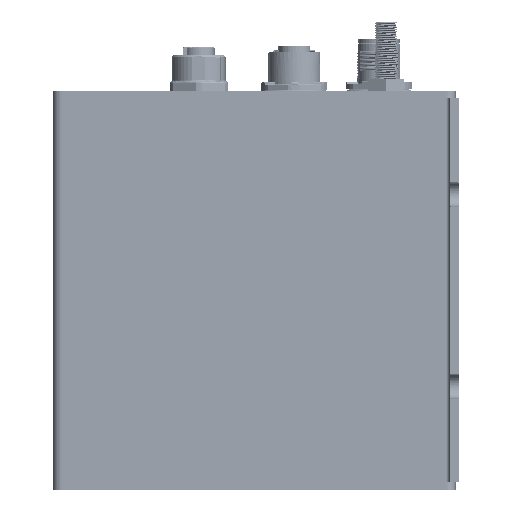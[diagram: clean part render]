
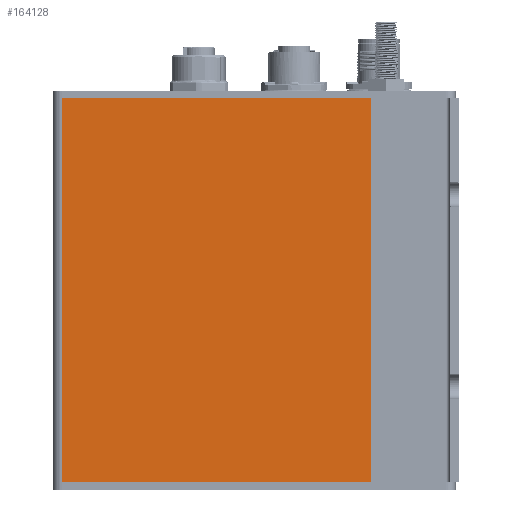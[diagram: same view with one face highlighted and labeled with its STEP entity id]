
A CAD part, left-side view. The second image highlights one B-rep face of the part: STEP entity #164128.
In plain terms, the highlighted planar face has unit normal (-1, 0, 0) as drawn and (1, 0, 0) by its records, which use the part's own axes.
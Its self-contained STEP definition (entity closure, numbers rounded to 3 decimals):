
#13030=VERTEX_POINT('',#228404);
#13031=VERTEX_POINT('',#228406);
#13032=VERTEX_POINT('',#228410);
#13033=VERTEX_POINT('',#228412);
#29727=VECTOR('',#187412,1.);
#29729=VECTOR('',#187415,1.);
#29730=VECTOR('',#187416,1.);
#29731=VECTOR('',#187417,1.);
#50149=LINE('',#228405,#29727);
#50151=LINE('',#228409,#29729);
#50152=LINE('',#228411,#29730);
#50153=LINE('',#228413,#29731);
#70745=EDGE_CURVE('',#13031,#13030,#50149,.T.);
#70747=EDGE_CURVE('',#13030,#13032,#50151,.T.);
#70748=EDGE_CURVE('',#13033,#13032,#50152,.T.);
#70749=EDGE_CURVE('',#13031,#13033,#50153,.T.);
#96696=ORIENTED_EDGE('',*,*,#70747,.T.);
#96697=ORIENTED_EDGE('',*,*,#70748,.F.);
#96698=ORIENTED_EDGE('',*,*,#70749,.F.);
#96699=ORIENTED_EDGE('',*,*,#70745,.T.);
#145280=EDGE_LOOP('',(#96696,#96697,#96698,#96699));
#154704=FACE_BOUND('',#145280,.T.);
#164128=ADVANCED_FACE('',(#154704),#300843,.T.);
#173000=AXIS2_PLACEMENT_3D('',#228408,#187414,$);
#187412=DIRECTION('',(0.,0.,1.));
#187414=DIRECTION('',(1.,0.,0.));
#187415=DIRECTION('',(0.,-1.,0.));
#187416=DIRECTION('',(0.,0.,1.));
#187417=DIRECTION('',(0.,-1.,0.));
#228404=CARTESIAN_POINT('',(104.04,83.03,110.));
#228405=CARTESIAN_POINT('',(104.04,83.03,10.));
#228406=CARTESIAN_POINT('',(104.04,83.03,10.));
#228408=CARTESIAN_POINT('',(104.04,42.765,10.));
#228409=CARTESIAN_POINT('',(104.04,83.03,110.));
#228410=CARTESIAN_POINT('',(104.04,2.5,110.));
#228411=CARTESIAN_POINT('',(104.04,2.5,10.));
#228412=CARTESIAN_POINT('',(104.04,2.5,10.));
#228413=CARTESIAN_POINT('',(104.04,83.03,10.));
#300843=PLANE('',#173000);
